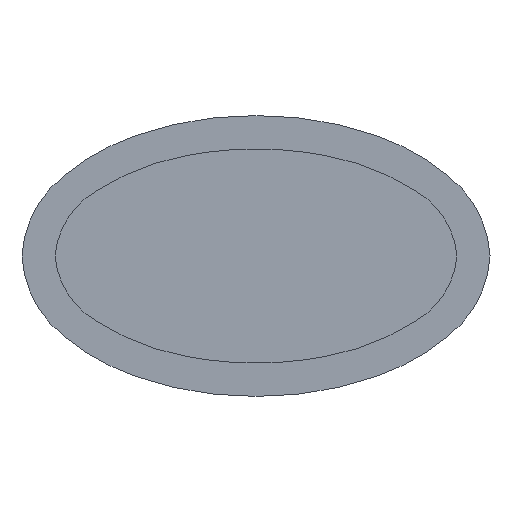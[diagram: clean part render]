
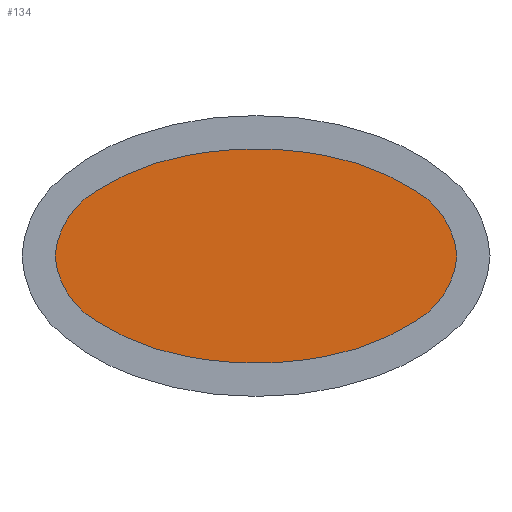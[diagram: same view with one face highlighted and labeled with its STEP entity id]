
A CAD part, front view. The second image highlights one B-rep face of the part: STEP entity #134.
In plain terms, the highlighted planar face has unit normal (0, -1, 0).
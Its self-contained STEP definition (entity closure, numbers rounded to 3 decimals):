
#134 = ADVANCED_FACE( '', ( #308 ), #309, .F. );
#308 = FACE_OUTER_BOUND( '', #524, .T. );
#309 = PLANE( '', #525 );
#524 = EDGE_LOOP( '', ( #780, #781, #782, #783, #784, #785, #786, #787, #788, #789, #790, #791, #792, #793 ) );
#525 = AXIS2_PLACEMENT_3D( '', #794, #795, #796 );
#780 = ORIENTED_EDGE( '', *, *, #1305, .F. );
#781 = ORIENTED_EDGE( '', *, *, #1352, .F. );
#782 = ORIENTED_EDGE( '', *, *, #1353, .F. );
#783 = ORIENTED_EDGE( '', *, *, #1354, .T. );
#784 = ORIENTED_EDGE( '', *, *, #1355, .F. );
#785 = ORIENTED_EDGE( '', *, *, #1356, .F. );
#786 = ORIENTED_EDGE( '', *, *, #1357, .F. );
#787 = ORIENTED_EDGE( '', *, *, #1339, .F. );
#788 = ORIENTED_EDGE( '', *, *, #1358, .F. );
#789 = ORIENTED_EDGE( '', *, *, #1359, .F. );
#790 = ORIENTED_EDGE( '', *, *, #1360, .T. );
#791 = ORIENTED_EDGE( '', *, *, #1361, .F. );
#792 = ORIENTED_EDGE( '', *, *, #1362, .F. );
#793 = ORIENTED_EDGE( '', *, *, #1363, .F. );
#794 = CARTESIAN_POINT( '', ( -8.801, -28., 0. ) );
#795 = DIRECTION( '', ( 0., 1., 0. ) );
#796 = DIRECTION( '', ( 0., 0., 1. ) );
#1305 = EDGE_CURVE( '', #1546, #1548, #1549, .T. );
#1339 = EDGE_CURVE( '', #1606, #1608, #1609, .T. );
#1352 = EDGE_CURVE( '', #1630, #1546, #1631, .T. );
#1353 = EDGE_CURVE( '', #1632, #1630, #1633, .T. );
#1354 = EDGE_CURVE( '', #1632, #1634, #1635, .T. );
#1355 = EDGE_CURVE( '', #1636, #1634, #1637, .T. );
#1356 = EDGE_CURVE( '', #1638, #1636, #1639, .T. );
#1357 = EDGE_CURVE( '', #1608, #1638, #1640, .T. );
#1358 = EDGE_CURVE( '', #1641, #1606, #1642, .T. );
#1359 = EDGE_CURVE( '', #1643, #1641, #1644, .T. );
#1360 = EDGE_CURVE( '', #1643, #1645, #1646, .T. );
#1361 = EDGE_CURVE( '', #1647, #1645, #1648, .T. );
#1362 = EDGE_CURVE( '', #1649, #1647, #1650, .T. );
#1363 = EDGE_CURVE( '', #1548, #1649, #1651, .T. );
#1546 = VERTEX_POINT( '', #1901 );
#1548 = VERTEX_POINT( '', #1904 );
#1549 = CIRCLE( '', #1905, 6.253 );
#1606 = VERTEX_POINT( '', #2027 );
#1608 = VERTEX_POINT( '', #2030 );
#1609 = CIRCLE( '', #2031, 6.253 );
#1630 = VERTEX_POINT( '', #2057 );
#1631 = CIRCLE( '', #2058, 18.573 );
#1632 = VERTEX_POINT( '', #2059 );
#1633 = CIRCLE( '', #2060, 27.163 );
#1634 = VERTEX_POINT( '', #2061 );
#1635 = CIRCLE( '', #2062, 72.324 );
#1636 = VERTEX_POINT( '', #2063 );
#1637 = CIRCLE( '', #2064, 27.163 );
#1638 = VERTEX_POINT( '', #2065 );
#1639 = CIRCLE( '', #2066, 18.573 );
#1640 = CIRCLE( '', #2067, 6.253 );
#1641 = VERTEX_POINT( '', #2068 );
#1642 = CIRCLE( '', #2069, 18.573 );
#1643 = VERTEX_POINT( '', #2070 );
#1644 = CIRCLE( '', #2071, 27.163 );
#1645 = VERTEX_POINT( '', #2072 );
#1646 = CIRCLE( '', #2073, 72.324 );
#1647 = VERTEX_POINT( '', #2074 );
#1648 = CIRCLE( '', #2075, 27.163 );
#1649 = VERTEX_POINT( '', #2076 );
#1650 = CIRCLE( '', #2077, 18.573 );
#1651 = CIRCLE( '', #2078, 6.253 );
#1901 = CARTESIAN_POINT( '', ( -11.866, -28., -4.915 ) );
#1904 = CARTESIAN_POINT( '', ( -15.031, -28., 0. ) );
#1905 = AXIS2_PLACEMENT_3D( '', #2517, #2518, #2519 );
#2027 = CARTESIAN_POINT( '', ( 11.866, -28., 4.915 ) );
#2030 = CARTESIAN_POINT( '', ( 15.031, -28., 0. ) );
#2031 = AXIS2_PLACEMENT_3D( '', #2554, #2555, #2556 );
#2057 = CARTESIAN_POINT( '', ( -5.039, -28., -7.541 ) );
#2058 = AXIS2_PLACEMENT_3D( '', #2574, #2575, #2576 );
#2059 = CARTESIAN_POINT( '', ( -0.067, -28., -8. ) );
#2060 = AXIS2_PLACEMENT_3D( '', #2577, #2578, #2579 );
#2061 = CARTESIAN_POINT( '', ( 0.06, -28., -8. ) );
#2062 = AXIS2_PLACEMENT_3D( '', #2580, #2581, #2582 );
#2063 = CARTESIAN_POINT( '', ( 5.039, -28., -7.541 ) );
#2064 = AXIS2_PLACEMENT_3D( '', #2583, #2584, #2585 );
#2065 = CARTESIAN_POINT( '', ( 11.866, -28., -4.915 ) );
#2066 = AXIS2_PLACEMENT_3D( '', #2586, #2587, #2588 );
#2067 = AXIS2_PLACEMENT_3D( '', #2589, #2590, #2591 );
#2068 = CARTESIAN_POINT( '', ( 5.039, -28., 7.541 ) );
#2069 = AXIS2_PLACEMENT_3D( '', #2592, #2593, #2594 );
#2070 = CARTESIAN_POINT( '', ( 0.06, -28., 8. ) );
#2071 = AXIS2_PLACEMENT_3D( '', #2595, #2596, #2597 );
#2072 = CARTESIAN_POINT( '', ( -0.067, -28., 8. ) );
#2073 = AXIS2_PLACEMENT_3D( '', #2598, #2599, #2600 );
#2074 = CARTESIAN_POINT( '', ( -5.039, -28., 7.541 ) );
#2075 = AXIS2_PLACEMENT_3D( '', #2601, #2602, #2603 );
#2076 = CARTESIAN_POINT( '', ( -11.866, -28., 4.915 ) );
#2077 = AXIS2_PLACEMENT_3D( '', #2604, #2605, #2606 );
#2078 = AXIS2_PLACEMENT_3D( '', #2607, #2608, #2609 );
#2517 = CARTESIAN_POINT( '', ( -8.801, -28., 0.535 ) );
#2518 = DIRECTION( '', ( 0., 1., 0. ) );
#2519 = DIRECTION( '', ( 1., 0., 0. ) );
#2554 = CARTESIAN_POINT( '', ( 8.801, -28., -0.535 ) );
#2555 = DIRECTION( '', ( 0., 1., 0. ) );
#2556 = DIRECTION( '', ( 1., 0., 0. ) );
#2574 = CARTESIAN_POINT( '', ( -1.915, -28., 10.767 ) );
#2575 = DIRECTION( '', ( 0., 1., 0. ) );
#2576 = DIRECTION( '', ( 1., 0., 0. ) );
#2577 = CARTESIAN_POINT( '', ( -0.067, -28., 19.163 ) );
#2578 = DIRECTION( '', ( 0., 1., 0. ) );
#2579 = DIRECTION( '', ( 1., 0., 0. ) );
#2580 = CARTESIAN_POINT( '', ( -0.003, -28., -80.324 ) );
#2581 = DIRECTION( '', ( 0., 1., 0. ) );
#2582 = DIRECTION( '', ( 1., 0., 0. ) );
#2583 = CARTESIAN_POINT( '', ( 0.067, -28., 19.163 ) );
#2584 = DIRECTION( '', ( 0., 1., 0. ) );
#2585 = DIRECTION( '', ( 1., 0., 0. ) );
#2586 = CARTESIAN_POINT( '', ( 1.915, -28., 10.767 ) );
#2587 = DIRECTION( '', ( 0., 1., 0. ) );
#2588 = DIRECTION( '', ( 1., 0., 0. ) );
#2589 = CARTESIAN_POINT( '', ( 8.801, -28., 0.535 ) );
#2590 = DIRECTION( '', ( 0., 1., 0. ) );
#2591 = DIRECTION( '', ( 1., 0., 0. ) );
#2592 = CARTESIAN_POINT( '', ( 1.915, -28., -10.767 ) );
#2593 = DIRECTION( '', ( 0., 1., 0. ) );
#2594 = DIRECTION( '', ( 1., 0., 0. ) );
#2595 = CARTESIAN_POINT( '', ( 0.067, -28., -19.163 ) );
#2596 = DIRECTION( '', ( 0., 1., 0. ) );
#2597 = DIRECTION( '', ( 1., 0., 0. ) );
#2598 = CARTESIAN_POINT( '', ( -0.004, -28., 80.324 ) );
#2599 = DIRECTION( '', ( 0., 1., 0. ) );
#2600 = DIRECTION( '', ( 1., 0., 0. ) );
#2601 = CARTESIAN_POINT( '', ( -0.067, -28., -19.163 ) );
#2602 = DIRECTION( '', ( 0., 1., 0. ) );
#2603 = DIRECTION( '', ( 1., 0., 0. ) );
#2604 = CARTESIAN_POINT( '', ( -1.915, -28., -10.767 ) );
#2605 = DIRECTION( '', ( 0., 1., 0. ) );
#2606 = DIRECTION( '', ( 1., 0., 0. ) );
#2607 = CARTESIAN_POINT( '', ( -8.801, -28., -0.535 ) );
#2608 = DIRECTION( '', ( 0., 1., 0. ) );
#2609 = DIRECTION( '', ( 1., 0., 0. ) );
